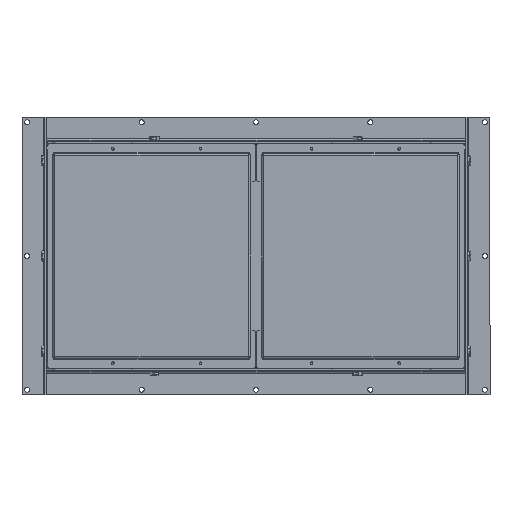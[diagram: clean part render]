
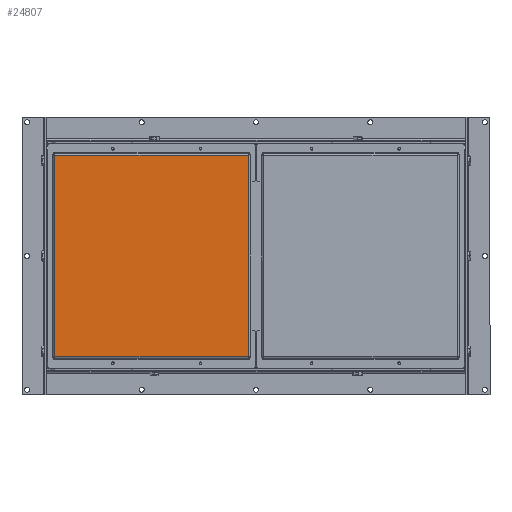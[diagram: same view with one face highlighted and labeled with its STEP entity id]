
A CAD part, front view. The second image highlights one B-rep face of the part: STEP entity #24807.
In plain terms, the highlighted planar face has unit normal (0, -1, 0).
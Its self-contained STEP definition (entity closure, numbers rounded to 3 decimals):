
#1825 = DIRECTION ( 'NONE',  ( 1., 0., 0. ) ) ;
#1881 = DIRECTION ( 'NONE',  ( 0., 1., 0. ) ) ;
#1887 = LINE ( 'NONE', #18681, #18809 ) ;
#2901 = EDGE_CURVE ( 'NONE', #4576, #10104, #11863, .T. ) ;
#3762 = EDGE_CURVE ( 'NONE', #15317, #38563, #38743, .T. ) ;
#4576 = VERTEX_POINT ( 'NONE', #10589 ) ;
#5417 = PLANE ( 'NONE',  #15175 ) ;
#5547 = CARTESIAN_POINT ( 'NONE',  ( -9.286, -50., -161. ) ) ;
#5674 = CARTESIAN_POINT ( 'NONE',  ( -11.786, -50., -159.993 ) ) ;
#6045 = DIRECTION ( 'NONE',  ( -1., 0., 0. ) ) ;
#6594 = VECTOR ( 'NONE', #30848, 1000. ) ;
#6955 = CARTESIAN_POINT ( 'NONE',  ( -316.786, -50., 159.993 ) ) ;
#9689 = CARTESIAN_POINT ( 'NONE',  ( -11.786, -50., 158.5 ) ) ;
#9962 = ORIENTED_EDGE ( 'NONE', *, *, #3762, .T. ) ;
#10104 = VERTEX_POINT ( 'NONE', #36282 ) ;
#10225 = LINE ( 'NONE', #26296, #40355 ) ;
#10589 = CARTESIAN_POINT ( 'NONE',  ( -316.786, -50., 158.5 ) ) ;
#11660 = EDGE_LOOP ( 'NONE', ( #28496, #16417, #9962, #42264 ) ) ;
#11863 = LINE ( 'NONE', #6955, #6594 ) ;
#12464 = EDGE_CURVE ( 'NONE', #38563, #4576, #10225, .T. ) ;
#15175 = AXIS2_PLACEMENT_3D ( 'NONE', #5547, #1881, #25517 ) ;
#15317 = VERTEX_POINT ( 'NONE', #21769 ) ;
#16190 = FACE_OUTER_BOUND ( 'NONE', #11660, .T. ) ;
#16417 = ORIENTED_EDGE ( 'NONE', *, *, #35607, .T. ) ;
#18681 = CARTESIAN_POINT ( 'NONE',  ( -318.279, -50., -158.5 ) ) ;
#18809 = VECTOR ( 'NONE', #1825, 1000. ) ;
#21769 = CARTESIAN_POINT ( 'NONE',  ( -11.786, -50., -158.5 ) ) ;
#24807 = ADVANCED_FACE ( 'NONE', ( #16190 ), #5417, .F. ) ;
#25517 = DIRECTION ( 'NONE',  ( 0., 0., -1. ) ) ;
#26296 = CARTESIAN_POINT ( 'NONE',  ( -10.293, -50., 158.5 ) ) ;
#28496 = ORIENTED_EDGE ( 'NONE', *, *, #2901, .T. ) ;
#29234 = VECTOR ( 'NONE', #32209, 1000. ) ;
#30848 = DIRECTION ( 'NONE',  ( 0., 0., -1. ) ) ;
#32209 = DIRECTION ( 'NONE',  ( 0., 0., 1. ) ) ;
#35607 = EDGE_CURVE ( 'NONE', #10104, #15317, #1887, .T. ) ;
#36282 = CARTESIAN_POINT ( 'NONE',  ( -316.786, -50., -158.5 ) ) ;
#38563 = VERTEX_POINT ( 'NONE', #9689 ) ;
#38743 = LINE ( 'NONE', #5674, #29234 ) ;
#40355 = VECTOR ( 'NONE', #6045, 1000. ) ;
#42264 = ORIENTED_EDGE ( 'NONE', *, *, #12464, .T. ) ;
